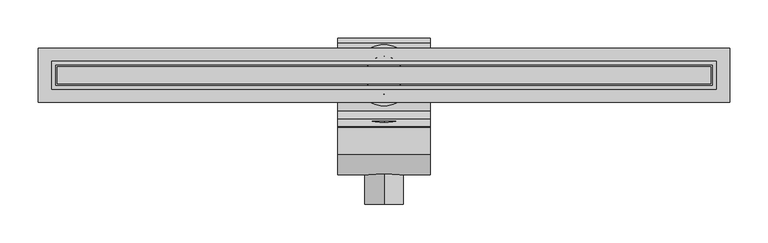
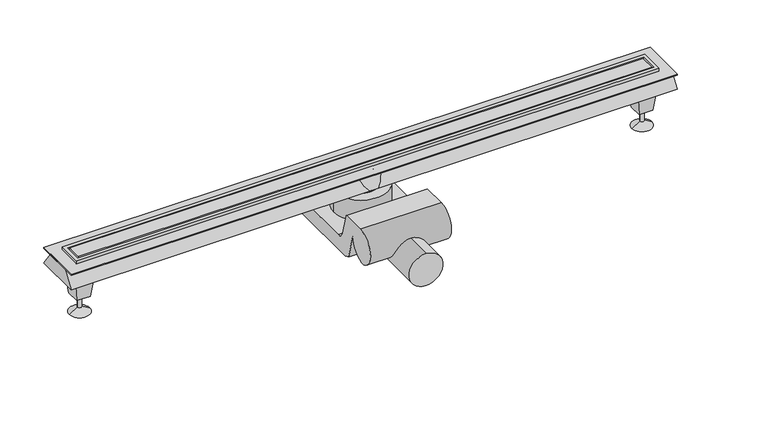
"""IFC4 building model written with IfcOpenShell, lengths in millimetres: sanitary terminal geometry, NLRS_PF_52_UN_XS Z1 Complete Set_Easydrain : XS-Z1 Brushed."""

from ifc_helpers import new_model, si_unit, point, frame, frame_2d, origin, origin_2d, place, context, project, spatial, polyline, circle_curve, trimmed, segment, composite_curve, outline, extrude, faceted_brep, source, transform, mapped, element, save
from ifc_brep_helpers import plane_surface, cylinder_surface, revolved_surface, advanced_brep


def sanitary_terminal_d8e2b8db(model_context):
    return source(origin(), model_context, "Body", "SolidModel", [
        extrude(outline(composite_curve([segment(trimmed(circle_curve(frame_2d((-74.0, 0.0)), 25.0), [point((-99.0, 0.0))], [point((-49.0, 0.0))], False, "CARTESIAN"), True, "CONTINUOUS"), segment(trimmed(circle_curve(frame_2d((-74.0, 0.0)), 25.0), [point((-49.0, 0.0))], [point((-99.0, 0.0))], False, "CARTESIAN"), True, "CONTINUOUS")], self_intersect=False)), frame((0.0, -168.0, 0.0), z_axis=(0.0, 1.0, 0.0), x_axis=(0.0, 0.0, 1.0)), (0.0, 0.0, 1.0), 108.0),
        extrude(outline(composite_curve([segment(trimmed(circle_curve(frame_2d((43.3675767, -90.3675767)), 4.6324233), [point((48.0, -90.3675767))], [point((43.3675767, -95.0))], False, "CARTESIAN"), True, "CONTINUOUS"), segment(polyline([(43.3675767, -95.0), (-60.0, -95.0)]), True, "CONTINUOUS"), segment(trimmed(circle_curve(frame_2d((-57.5994856, -66.0429208)), 29.056409), [point((-60.0, -95.0))], [point((-73.552105, -90.3284894))], False, "CARTESIAN"), True, "CONTINUOUS"), segment(polyline([(-73.552105, -90.3284894), (-84.1621521, -51.5447741)]), True, "CONTINUOUS"), segment(trimmed(circle_curve(frame_2d((-112.4464233, -51.5447741)), 28.2842712), [point((-84.1621521, -51.5447741))], [point((-112.4464233, -79.8290454))], False, "CARTESIAN"), True, "CONTINUOUS"), segment(trimmed(circle_curve(frame_2d((-102.9818456, -55.2956944)), 26.2956944), [point((-112.4464233, -79.8290454))], [point((-102.9818456, -29.0))], False, "CARTESIAN"), True, "CONTINUOUS"), segment(polyline([(-102.9818456, -29.0), (-67.7157548, -29.0)]), True, "CONTINUOUS"), segment(trimmed(circle_curve(frame_2d((-72.2174189, -34.731688)), 7.2881566), [point((-67.7157548, -29.0))], [point((-66.5178956, -30.189369))], False, "CARTESIAN"), True, "CONTINUOUS"), segment(polyline([(-66.5178956, -30.189369), (-57.3528508, -63.0)]), True, "CONTINUOUS"), segment(trimmed(circle_curve(frame_2d((-46.2657703, -60.6709247)), 11.3290753), [point((-57.3528508, -63.0))], [point((-46.2657703, -72.0))], True, "CARTESIAN"), True, "CONTINUOUS"), segment(polyline([(-46.2657703, -72.0), (42.6324233, -72.0)]), True, "CONTINUOUS"), segment(trimmed(circle_curve(frame_2d((42.6324233, -77.3675767)), 5.3675767), [point((42.6324233, -72.0))], [point((48.0, -77.3675767))], False, "CARTESIAN"), True, "CONTINUOUS"), segment(polyline([(48.0, -77.3675767), (48.0, -90.3675767)]), True, "CONTINUOUS")], self_intersect=False)), frame((-60.0, 0.0, 0.0), z_axis=(1.0, 0.0, 0.0), x_axis=(0.0, 1.0, 0.0)), (0.0, 0.0, 1.0), 120.0),
        extrude(outline(composite_curve([segment(trimmed(circle_curve(origin_2d(), 40.0), [point((-40.0, 0.0))], [point((40.0, 0.0))], False, "CARTESIAN"), True, "CONTINUOUS"), segment(trimmed(circle_curve(origin_2d(), 40.0), [point((40.0, 0.0))], [point((-40.0, 0.0))], False, "CARTESIAN"), True, "CONTINUOUS")], self_intersect=False)), frame((0.0, 0.0, -72.0), z_axis=(0.0, 0.0, 1.0), x_axis=(1.0, 0.0, 0.0)), (0.0, 0.0, 1.0), 33.0),
        extrude(outline(composite_curve([segment(trimmed(circle_curve(origin_2d(), 25.0), [point((-25.0, 0.0))], [point((25.0, 0.0))], False, "CARTESIAN"), True, "CONTINUOUS"), segment(trimmed(circle_curve(origin_2d(), 25.0), [point((25.0, 0.0))], [point((-25.0, 0.0))], False, "CARTESIAN"), True, "CONTINUOUS")], self_intersect=False)), frame((0.0, 0.0, -39.0), z_axis=(0.0, 0.0, 1.0), x_axis=(1.0, 0.0, 0.0)), (0.0, 0.0, 1.0), 10.0),
        advanced_brep(
        [(420.5, 0.0, -69.0), (414.5, 0.0, -69.0), (417.5, 0.0, -69.0), (420.5, 0.0, -87.5), (414.5, 0.0, -87.5), (432.5, 0.0, -95.0), (402.5, 0.0, -95.0), (417.5, 0.0, -95.0)],
        [
            (0, 1, circle_curve(frame((417.5, 0.0, -69.0), z_axis=(0.0, 0.0, 1.0), x_axis=(-1.0, 0.0, 0.0)), 3.0)),
            (1, 2),
            (2, 0),
            (1, 0, circle_curve(frame((417.5, 0.0, -69.0), z_axis=(0.0, 0.0, 1.0), x_axis=(-1.0, 0.0, 0.0)), 3.0)),
            (3, 4, circle_curve(frame((417.5, 0.0, -87.5), z_axis=(0.0, 0.0, 1.0), x_axis=(-1.0, 0.0, 0.0)), 3.0)),
            (4, 1),
            (0, 3),
            (4, 3, circle_curve(frame((417.5, 0.0, -87.5), z_axis=(0.0, 0.0, 1.0), x_axis=(-1.0, 0.0, 0.0)), 3.0)),
            (5, 6, circle_curve(frame((417.5, 0.0, -95.0), z_axis=(0.0, 0.0, 1.0), x_axis=(-1.0, 0.0, 0.0)), 15.0)),
            (6, 4),
            (3, 5),
            (6, 5, circle_curve(frame((417.5, 0.0, -95.0), z_axis=(0.0, 0.0, 1.0), x_axis=(-1.0, 0.0, 0.0)), 15.0)),
            (7, 6),
            (5, 7),
        ],
        [
            plane_surface(frame((417.5, 0.0, -69.0), z_axis=(0.0, 0.0, 1.0), x_axis=(-1.0, 0.0, 0.0))),
            cylinder_surface(frame((417.5, 0.0, -103.1782032), z_axis=(0.0, 0.0, -1.0), x_axis=(-1.0, 0.0, 0.0)), 3.0),
            revolved_surface(polyline([(414.5, 0.0, -87.5), (402.5, 0.0, -95.0)]), (417.5, 0.0, -103.1782032), (0.0, 0.0, -1.0)),
            plane_surface(frame((417.5, 0.0, -95.0), z_axis=(0.0, 0.0, -1.0), x_axis=(-1.0, 0.0, 0.0))),
        ],
        [
            (0, [[1, 2, 3]]),
            (0, [[4, -3, -2]]),
            (1, [[5, 6, -1, 7]]),
            (1, [[8, -7, -4, -6]]),
            (2, [[9, 10, -5, 11]]),
            (2, [[12, -11, -8, -10]]),
            (3, [[13, -9, 14]]),
            (3, [[-14, -12, -13]]),
        ],
    ),
        faceted_brep([(407.5, 10.0, -69.0), (427.5, 10.0, -69.0), (427.5, -10.0, -69.0), (407.5, -10.0, -69.0), (402.5, 15.0, -29.0), (402.5, -15.0, -29.0), (432.5, -15.0, -29.0), (432.5, 15.0, -29.0)], [[[0, 1, 2, 3]], [[4, 5, 6, 7]], [[5, 4, 0, 3]], [[6, 5, 3, 2]], [[7, 6, 2, 1]], [[4, 7, 1, 0]]]),
        advanced_brep(
        [(-414.5, 0.0, -69.0), (-420.5, 0.0, -69.0), (-417.5, 0.0, -69.0), (-414.5, 0.0, -87.5), (-420.5, 0.0, -87.5), (-402.5, 0.0, -95.0), (-432.5, 0.0, -95.0), (-417.5, 0.0, -95.0)],
        [
            (0, 1, circle_curve(frame((-417.5, 0.0, -69.0), z_axis=(0.0, 0.0, 1.0), x_axis=(-1.0, 0.0, 0.0)), 3.0)),
            (1, 2),
            (2, 0),
            (1, 0, circle_curve(frame((-417.5, 0.0, -69.0), z_axis=(0.0, 0.0, 1.0), x_axis=(-1.0, 0.0, 0.0)), 3.0)),
            (3, 4, circle_curve(frame((-417.5, 0.0, -87.5), z_axis=(0.0, 0.0, 1.0), x_axis=(-1.0, 0.0, 0.0)), 3.0)),
            (4, 1),
            (0, 3),
            (4, 3, circle_curve(frame((-417.5, 0.0, -87.5), z_axis=(0.0, 0.0, 1.0), x_axis=(-1.0, 0.0, 0.0)), 3.0)),
            (5, 6, circle_curve(frame((-417.5, 0.0, -95.0), z_axis=(0.0, 0.0, 1.0), x_axis=(-1.0, 0.0, 0.0)), 15.0)),
            (6, 4),
            (3, 5),
            (6, 5, circle_curve(frame((-417.5, 0.0, -95.0), z_axis=(0.0, 0.0, 1.0), x_axis=(-1.0, 0.0, 0.0)), 15.0)),
            (7, 6),
            (5, 7),
        ],
        [
            plane_surface(frame((-417.5, 0.0, -69.0), z_axis=(0.0, 0.0, 1.0), x_axis=(-1.0, 0.0, 0.0))),
            cylinder_surface(frame((-417.5, 0.0, -103.1782032), z_axis=(0.0, 0.0, -1.0), x_axis=(-1.0, 0.0, 0.0)), 3.0),
            revolved_surface(polyline([(-420.5, 0.0, -87.5), (-432.5, 0.0, -95.0)]), (-417.5, 0.0, -103.1782032), (0.0, 0.0, -1.0)),
            plane_surface(frame((-417.5, 0.0, -95.0), z_axis=(0.0, 0.0, -1.0), x_axis=(-1.0, 0.0, 0.0))),
        ],
        [
            (0, [[1, 2, 3]]),
            (0, [[4, -3, -2]]),
            (1, [[5, 6, -1, 7]]),
            (1, [[8, -7, -4, -6]]),
            (2, [[9, 10, -5, 11]]),
            (2, [[12, -11, -8, -10]]),
            (3, [[13, -9, 14]]),
            (3, [[-14, -12, -13]]),
        ],
    ),
        faceted_brep([(-427.5, 10.0, -69.0), (-407.5, 10.0, -69.0), (-407.5, -10.0, -69.0), (-427.5, -10.0, -69.0), (-432.5, 15.0, -29.0), (-432.5, -15.0, -29.0), (-402.5, -15.0, -29.0), (-402.5, 15.0, -29.0)], [[[0, 1, 2, 3]], [[4, 5, 6, 7]], [[5, 4, 0, 3]], [[6, 5, 3, 2]], [[7, 6, 2, 1]], [[4, 7, 1, 0]]]),
        extrude(outline(polyline([(450.0, 35.0), (450.0, -35.0), (-450.0, -35.0), (-450.0, 35.0), (450.0, 35.0)])), frame((0.0, 0.0, -6.4659054), z_axis=(0.0, 0.0, 1.0), x_axis=(1.0, 0.0, 0.0)), (0.0, 0.0, 1.0), 1.4659054),
        advanced_brep(
        [(-35.0, 0.0, -29.0), (35.0, 0.0, -29.0), (-25.0, 0.0, -5.0), (25.0, 0.0, -5.0)],
        [
            (0, 1, circle_curve(frame((0.0, 0.0, -29.0), z_axis=(0.0, 0.0, -1.0), x_axis=(-1.0, 0.0, 0.0)), 35.0)),
            (1, 0, circle_curve(frame((0.0, 0.0, -29.0), z_axis=(0.0, 0.0, -1.0), x_axis=(1.0, 0.0, 0.0)), 35.0)),
            (2, 3, circle_curve(frame((0.0, 0.0, -5.0), z_axis=(0.0, 0.0, 1.0), x_axis=(1.0, 0.0, 0.0)), 25.0)),
            (3, 2, circle_curve(frame((0.0, 0.0, -5.0), z_axis=(0.0, 0.0, 1.0), x_axis=(-1.0, 0.0, 0.0)), 25.0)),
            (2, 0),
            (1, 3),
        ],
        [
            plane_surface(frame((0.0, 0.0, -29.0), z_axis=(0.0, 0.0, -1.0), x_axis=(0.0, -1.0, 0.0))),
            plane_surface(frame((0.0, 0.0, -5.0), z_axis=(0.0, 0.0, 1.0), x_axis=(0.0, -1.0, 0.0))),
            revolved_surface(polyline([(-25.0, 0.0, -5.0), (-35.0, 0.0, -29.0)]), (0.0, 0.0, 55.0), (0.0, 0.0, -1.0)),
            revolved_surface(polyline([(25.0, 0.0, -5.0), (35.0, 0.0, -29.0)]), (0.0, 0.0, 55.0), (0.0, 0.0, -1.0)),
        ],
        [
            (0, [[1, 2]]),
            (1, [[3, 4]]),
            (2, [[-3, 5, -2, 6]]),
            (3, [[-4, -6, -1, -5]]),
        ],
    ),
        extrude(outline(polyline([(-18.0, -5.0), (18.0, -5.0), (35.0, -29.0), (-35.0, -29.0), (-18.0, -5.0)])), frame((-450.0, 0.0, 0.0), z_axis=(1.0, 0.0, 0.0), x_axis=(0.0, 1.0, 0.0)), (0.0, 0.0, 1.0), 900.0),
        extrude(outline(polyline([(432.5, 18.0), (432.5, -18.0), (-432.5, -18.0), (-432.5, 18.0), (432.5, 18.0)]), holes=[polyline([(427.5, 13.0), (-427.5, 13.0), (-427.5, -13.0), (427.5, -13.0), (427.5, 13.0)])]), frame((0.0, 0.0, -5.0), z_axis=(0.0, 0.0, 1.0), x_axis=(1.0, 0.0, 0.0)), (0.0, 0.0, 1.0), 5.0),
        extrude(outline(polyline([(425.5, 11.0), (425.5, -11.0), (-425.5, -11.0), (-425.5, 11.0), (425.5, 11.0)])), frame((0.0, 0.0, -5.0), z_axis=(0.0, 0.0, 1.0), x_axis=(1.0, 0.0, 0.0)), (0.0, 0.0, 1.0), 5.0),
    ])


if __name__ == "__main__":
    model = new_model("IFC4")
    model_context = context("Model", 3, world=origin())
    ifc_project = project(units=[si_unit("LENGTHUNIT", "METRE", prefix="MILLI")], contexts=[model_context])
    site = spatial("IfcSite", under=ifc_project)
    building = spatial("IfcBuilding", under=site)
    placement = place(None, origin())
    sanitary_terminal_shape = sanitary_terminal_d8e2b8db(model_context)
    element("IfcSanitaryTerminal", 1, ObjectType="NLRS_PF_52_UN_XS Z1 Complete Set_Easydrain : XS-Z1 Brushed", at=placement, inside=building, context=model_context, shape_type="MappedRepresentation", body=[
        mapped(sanitary_terminal_shape, transform((0.0, 0.0, 0.0), x_axis=(1.0, 0.0, 0.0), y_axis=(0.0, 1.0, 0.0), z_axis=(0.0, 0.0, 1.0))),
    ])
    save(model, "model.ifc")
